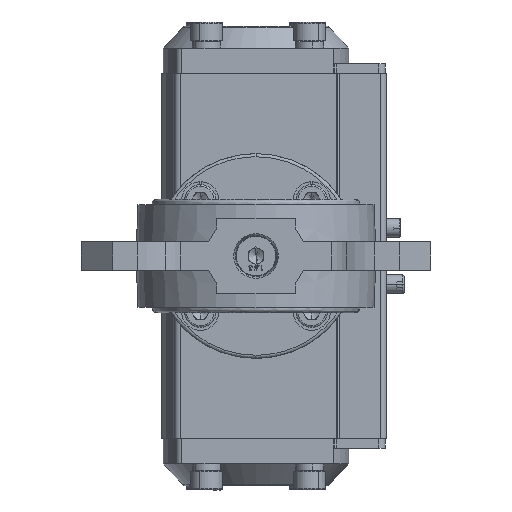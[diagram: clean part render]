
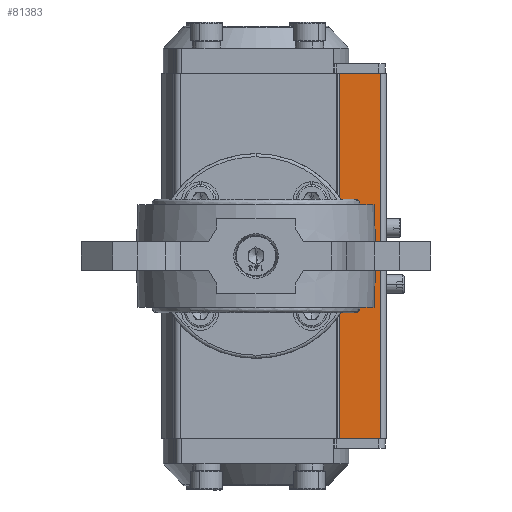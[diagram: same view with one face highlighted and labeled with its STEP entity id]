
A CAD part, front view. The second image highlights one B-rep face of the part: STEP entity #81383.
In plain terms, the highlighted planar face has unit normal (0, -1, 0).
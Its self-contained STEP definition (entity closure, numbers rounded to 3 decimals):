
#4140 = VERTEX_POINT ( 'NONE', #31111 ) ;
#4745 = DIRECTION ( 'NONE',  ( 0., 0., -1. ) ) ;
#5552 = CARTESIAN_POINT ( 'NONE',  ( 26., 156., -58. ) ) ;
#7100 = CARTESIAN_POINT ( 'NONE',  ( 26.5, 156., -58. ) ) ;
#7516 = EDGE_LOOP ( 'NONE', ( #56953, #69545, #50951, #24056 ) ) ;
#10794 = CARTESIAN_POINT ( 'NONE',  ( 39.5, 156., 58. ) ) ;
#14304 = VECTOR ( 'NONE', #4745, 1000. ) ;
#19073 = DIRECTION ( 'NONE',  ( 1., 0., 0. ) ) ;
#19631 = VERTEX_POINT ( 'NONE', #26406 ) ;
#20868 = LINE ( 'NONE', #59885, #14304 ) ;
#23953 = DIRECTION ( 'NONE',  ( 0., 0., -1. ) ) ;
#24056 = ORIENTED_EDGE ( 'NONE', *, *, #74142, .F. ) ;
#26406 = CARTESIAN_POINT ( 'NONE',  ( 26.5, 156., 58. ) ) ;
#26738 = CARTESIAN_POINT ( 'NONE',  ( 0., 156., -58. ) ) ;
#28421 = EDGE_CURVE ( 'NONE', #39978, #4140, #82779, .T. ) ;
#29730 = LINE ( 'NONE', #52580, #88891 ) ;
#31111 = CARTESIAN_POINT ( 'NONE',  ( 39.5, 156., -58. ) ) ;
#32450 = VECTOR ( 'NONE', #23953, 1000. ) ;
#34346 = PLANE ( 'NONE',  #63231 ) ;
#39978 = VERTEX_POINT ( 'NONE', #7100 ) ;
#42918 = CARTESIAN_POINT ( 'NONE',  ( 26.5, 156., -58. ) ) ;
#44773 = EDGE_CURVE ( 'NONE', #19631, #65051, #29730, .T. ) ;
#50951 = ORIENTED_EDGE ( 'NONE', *, *, #28421, .T. ) ;
#52580 = CARTESIAN_POINT ( 'NONE',  ( 0., 156., 58. ) ) ;
#56695 = FACE_OUTER_BOUND ( 'NONE', #7516, .T. ) ;
#56953 = ORIENTED_EDGE ( 'NONE', *, *, #44773, .F. ) ;
#59885 = CARTESIAN_POINT ( 'NONE',  ( 39.5, 156., 209.218 ) ) ;
#63231 = AXIS2_PLACEMENT_3D ( 'NONE', #5552, #68956, #75111 ) ;
#64131 = VECTOR ( 'NONE', #19073, 1000. ) ;
#65051 = VERTEX_POINT ( 'NONE', #10794 ) ;
#66706 = DIRECTION ( 'NONE',  ( 1., 0., 0. ) ) ;
#68956 = DIRECTION ( 'NONE',  ( 0., -1., 0. ) ) ;
#69545 = ORIENTED_EDGE ( 'NONE', *, *, #77075, .T. ) ;
#74142 = EDGE_CURVE ( 'NONE', #65051, #4140, #20868, .T. ) ;
#75111 = DIRECTION ( 'NONE',  ( 0., 0., -1. ) ) ;
#77075 = EDGE_CURVE ( 'NONE', #19631, #39978, #82897, .T. ) ;
#81383 = ADVANCED_FACE ( 'NONE', ( #56695 ), #34346, .T. ) ;
#82779 = LINE ( 'NONE', #26738, #64131 ) ;
#82897 = LINE ( 'NONE', #42918, #32450 ) ;
#88891 = VECTOR ( 'NONE', #66706, 1000. ) ;
